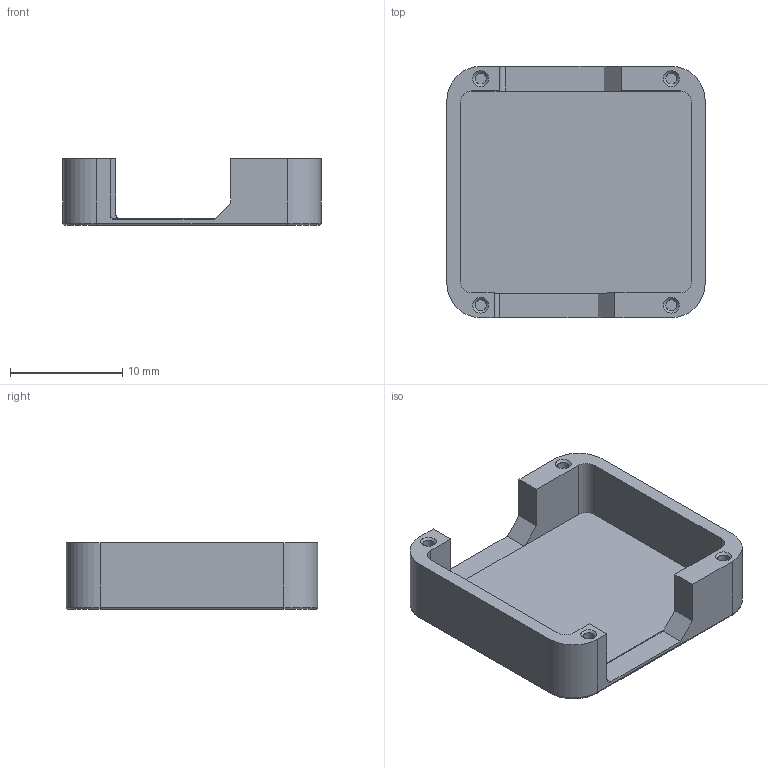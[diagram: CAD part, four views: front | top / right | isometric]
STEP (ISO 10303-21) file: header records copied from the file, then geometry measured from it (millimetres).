
FILE_DESCRIPTION(/* description */ (''),/* implementation_level */ '2;1');
FILE_NAME(/* name */ 'Gehäuse BEC Platine.stp',/* time_stamp */ '2024-12-05T16:17:42+01:00',/* author */ (''),/* organization */ (''),/* preprocessor_version */ 'ST-DEVELOPER v19.4',/* originating_system */ 'SIEMENS PLM Software NX2212.8702',/* authorisation */ '');
FILE_SCHEMA (('AUTOMOTIVE_DESIGN { 1 0 10303 214 3 1 1 1 }'));
Length unit declared in the file: millimetre
Products named in the file (1): Gehäuse BEC Platine
Bounding box: 23 x 22.4 x 5.97 mm (x, y, z)
Volume: 773.9 mm3; surface area: 1793.5 mm2
Topology: 1 solids, 1 shells, 54 faces, 132 edges, 85 vertices
Faces by surface type: plane 28, cylinder 18, cone 4, torus 4
Full cylindrical faces by diameter (mm): 1 x4
Entity records: 1562 total; most frequent: DIRECTION 278, CARTESIAN_POINT 257, ORIENTED_EDGE 240, EDGE_CURVE 120, AXIS2_PLACEMENT_3D 102, VERTEX_POINT 80, LINE 74, VECTOR 74
